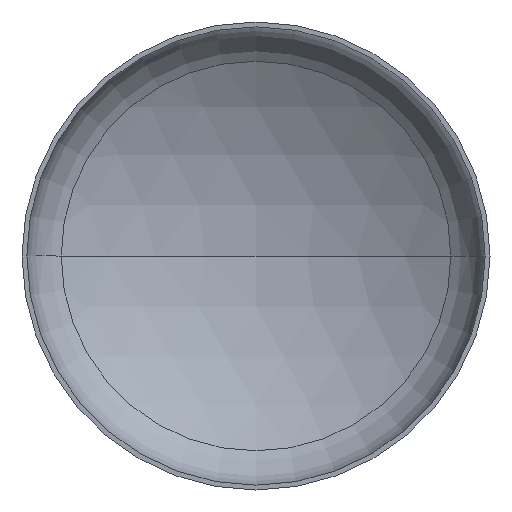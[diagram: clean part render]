
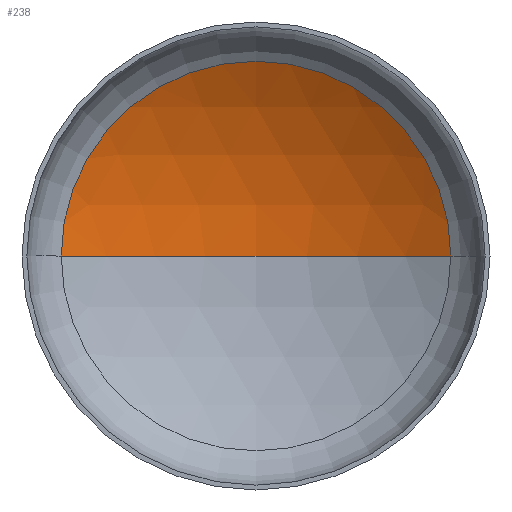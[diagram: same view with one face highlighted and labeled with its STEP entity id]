
A CAD part, front view. The second image highlights one B-rep face of the part: STEP entity #238.
In plain terms, the highlighted spherical face has radius 2560 mm.
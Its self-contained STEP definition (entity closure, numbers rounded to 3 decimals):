
#14 = EDGE_LOOP ( 'NONE', ( #235, #98, #47 ) ) ;
#20 = AXIS2_PLACEMENT_3D ( 'NONE', #385, #325, #267 ) ;
#22 = DIRECTION ( 'NONE',  ( -1., 0., 0. ) ) ;
#26 = AXIS2_PLACEMENT_3D ( 'NONE', #349, #215, #218 ) ;
#29 = VERTEX_POINT ( 'NONE', #363 ) ;
#34 = AXIS2_PLACEMENT_3D ( 'NONE', #147, #162, #160 ) ;
#35 = CARTESIAN_POINT ( 'NONE',  ( 0., -1667.759, 0. ) ) ;
#47 = ORIENTED_EDGE ( 'NONE', *, *, #359, .T. ) ;
#56 = AXIS2_PLACEMENT_3D ( 'NONE', #35, #246, #22 ) ;
#69 = VERTEX_POINT ( 'NONE', #275 ) ;
#88 = VERTEX_POINT ( 'NONE', #258 ) ;
#98 = ORIENTED_EDGE ( 'NONE', *, *, #348, .T. ) ;
#147 = CARTESIAN_POINT ( 'NONE',  ( 0., -1667.759, 0. ) ) ;
#160 = DIRECTION ( 'NONE',  ( -1., 0., 0. ) ) ;
#162 = DIRECTION ( 'NONE',  ( 0., 0., -1. ) ) ;
#169 = CIRCLE ( 'NONE', #26, 2560. ) ;
#204 = FACE_OUTER_BOUND ( 'NONE', #14, .T. ) ;
#215 = DIRECTION ( 'NONE',  ( 0., 0., 1. ) ) ;
#218 = DIRECTION ( 'NONE',  ( 1., 0., 0. ) ) ;
#235 = ORIENTED_EDGE ( 'NONE', *, *, #353, .F. ) ;
#238 = ADVANCED_FACE ( 'NONE', ( #204 ), #264, .F. ) ;
#246 = DIRECTION ( 'NONE',  ( 0., 0., -1. ) ) ;
#258 = CARTESIAN_POINT ( 'NONE',  ( -1331.942, 518.455, 0. ) ) ;
#264 = SPHERICAL_SURFACE ( 'NONE', #56, 2560. ) ;
#267 = DIRECTION ( 'NONE',  ( 1., 0., 0. ) ) ;
#275 = CARTESIAN_POINT ( 'NONE',  ( 0., 892.241, 0. ) ) ;
#290 = CIRCLE ( 'NONE', #20, 1331.942 ) ;
#325 = DIRECTION ( 'NONE',  ( 0., -1., 0. ) ) ;
#348 = EDGE_CURVE ( 'NONE', #69, #29, #406, .T. ) ;
#349 = CARTESIAN_POINT ( 'NONE',  ( 0., -1667.759, 0. ) ) ;
#353 = EDGE_CURVE ( 'NONE', #69, #88, #169, .T. ) ;
#359 = EDGE_CURVE ( 'NONE', #29, #88, #290, .T. ) ;
#363 = CARTESIAN_POINT ( 'NONE',  ( 1331.942, 518.455, 0. ) ) ;
#385 = CARTESIAN_POINT ( 'NONE',  ( 0., 518.455, 0. ) ) ;
#406 = CIRCLE ( 'NONE', #34, 2560. ) ;
